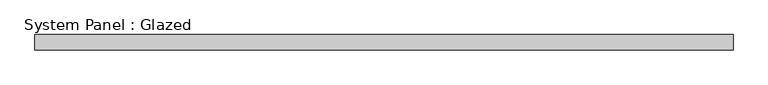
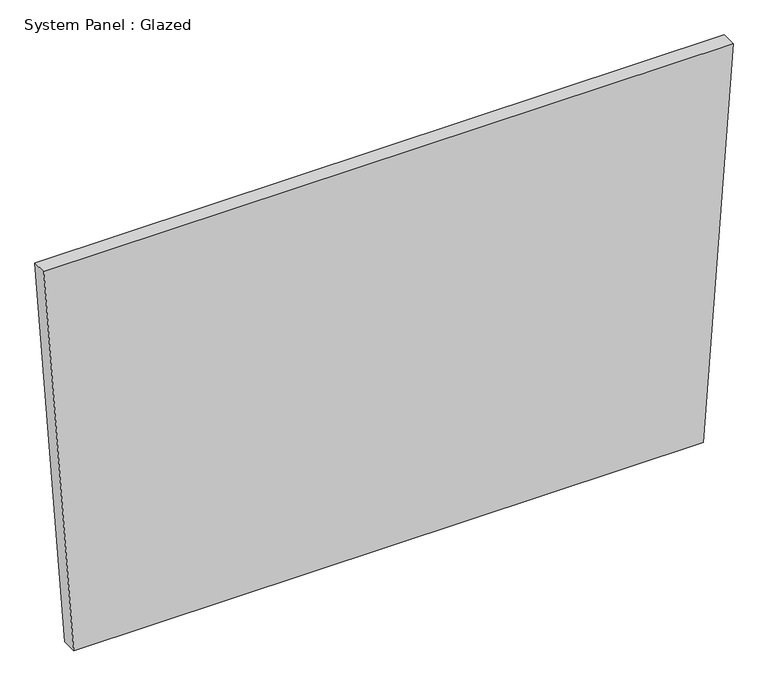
"""IFC4 building model written with IfcOpenShell, lengths in millimetres: plate geometry, System Panel : Glazed."""

from ifc_helpers import new_model, si_unit, frame, origin, place, context, project, spatial, polyline, outline, extrude, source, transform, mapped, element, save


def system_panel_glazed_bbd553d4(model_context):
    return source(origin(), model_context, "Body", "SweptSolid", [
        extrude(outline(polyline([(0.0, -524.0413695), (0.0, 524.0410145), (684.8999303, 573.785085), (684.8950423, -573.785085), (0.0, -524.0413695)])), frame((0.0, 19.05, 0.0), z_axis=(0.0, 1.0, 0.0), x_axis=(0.0, 0.0, 1.0)), (0.0, 0.0, 1.0), 25.4),
    ])


if __name__ == "__main__":
    model = new_model("IFC4")
    model_context = context("Model", 3, world=origin())
    ifc_project = project(units=[si_unit("LENGTHUNIT", "METRE", prefix="MILLI")], contexts=[model_context])
    site = spatial("IfcSite", under=ifc_project)
    building = spatial("IfcBuilding", under=site)
    placement = place(None, origin())
    system_panel_glazed_shape = system_panel_glazed_bbd553d4(model_context)
    element("IfcPlate", 1, ObjectType="System Panel : Glazed", at=placement, inside=building, context=model_context, shape_type="MappedRepresentation", body=[
        mapped(system_panel_glazed_shape, transform((0.0, 0.0, 0.0), x_axis=(1.0, 0.0, 0.0), y_axis=(0.0, 1.0, 0.0), z_axis=(0.0, 0.0, 1.0))),
    ])
    save(model, "model.ifc")
